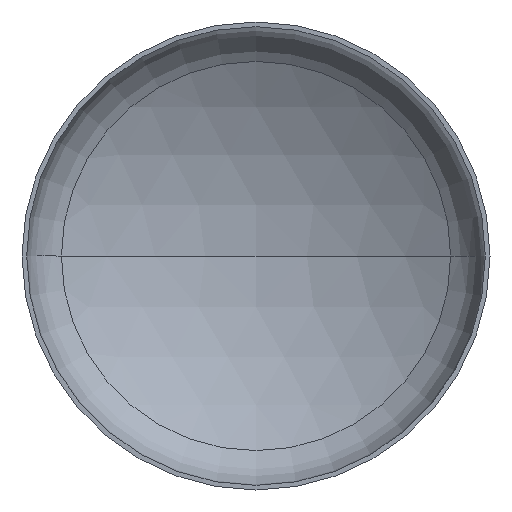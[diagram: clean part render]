
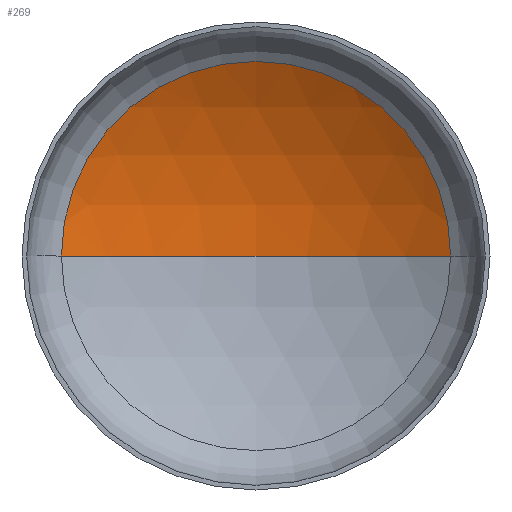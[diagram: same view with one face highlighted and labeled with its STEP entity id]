
A CAD part, front view. The second image highlights one B-rep face of the part: STEP entity #269.
In plain terms, the highlighted spherical face has radius 2720 mm.
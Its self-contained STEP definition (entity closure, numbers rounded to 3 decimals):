
#1 = AXIS2_PLACEMENT_3D ( 'NONE', #363, #242, #380 ) ;
#3 = AXIS2_PLACEMENT_3D ( 'NONE', #284, #39, #307 ) ;
#4 = SPHERICAL_SURFACE ( 'NONE', #56, 2720. ) ;
#5 = CARTESIAN_POINT ( 'NONE',  ( 0., 954.862, 0. ) ) ;
#12 = CARTESIAN_POINT ( 'NONE',  ( -1413.904, 558.496, 0. ) ) ;
#18 = CARTESIAN_POINT ( 'NONE',  ( 0., 558.496, 0. ) ) ;
#22 = DIRECTION ( 'NONE',  ( 0., 0., -1. ) ) ;
#23 = AXIS2_PLACEMENT_3D ( 'NONE', #18, #304, #126 ) ;
#36 = VERTEX_POINT ( 'NONE', #12 ) ;
#38 = VERTEX_POINT ( 'NONE', #5 ) ;
#39 = DIRECTION ( 'NONE',  ( 0., 0., -1. ) ) ;
#56 = AXIS2_PLACEMENT_3D ( 'NONE', #195, #22, #124 ) ;
#103 = CIRCLE ( 'NONE', #3, 2720. ) ;
#112 = ORIENTED_EDGE ( 'NONE', *, *, #356, .T. ) ;
#124 = DIRECTION ( 'NONE',  ( -1., 0., 0. ) ) ;
#126 = DIRECTION ( 'NONE',  ( 1., 0., 0. ) ) ;
#133 = EDGE_LOOP ( 'NONE', ( #173, #345, #112 ) ) ;
#154 = CIRCLE ( 'NONE', #23, 1413.904 ) ;
#159 = VERTEX_POINT ( 'NONE', #316 ) ;
#173 = ORIENTED_EDGE ( 'NONE', *, *, #391, .F. ) ;
#195 = CARTESIAN_POINT ( 'NONE',  ( 0., -1765.138, 0. ) ) ;
#242 = DIRECTION ( 'NONE',  ( 0., 0., 1. ) ) ;
#269 = ADVANCED_FACE ( 'NONE', ( #367 ), #4, .F. ) ;
#284 = CARTESIAN_POINT ( 'NONE',  ( 0., -1765.138, 0. ) ) ;
#304 = DIRECTION ( 'NONE',  ( 0., -1., 0. ) ) ;
#307 = DIRECTION ( 'NONE',  ( -1., 0., 0. ) ) ;
#316 = CARTESIAN_POINT ( 'NONE',  ( 1413.904, 558.496, 0. ) ) ;
#329 = CIRCLE ( 'NONE', #1, 2720. ) ;
#345 = ORIENTED_EDGE ( 'NONE', *, *, #393, .T. ) ;
#356 = EDGE_CURVE ( 'NONE', #159, #36, #154, .T. ) ;
#363 = CARTESIAN_POINT ( 'NONE',  ( 0., -1765.138, 0. ) ) ;
#367 = FACE_OUTER_BOUND ( 'NONE', #133, .T. ) ;
#380 = DIRECTION ( 'NONE',  ( 1., 0., 0. ) ) ;
#391 = EDGE_CURVE ( 'NONE', #38, #36, #329, .T. ) ;
#393 = EDGE_CURVE ( 'NONE', #38, #159, #103, .T. ) ;
